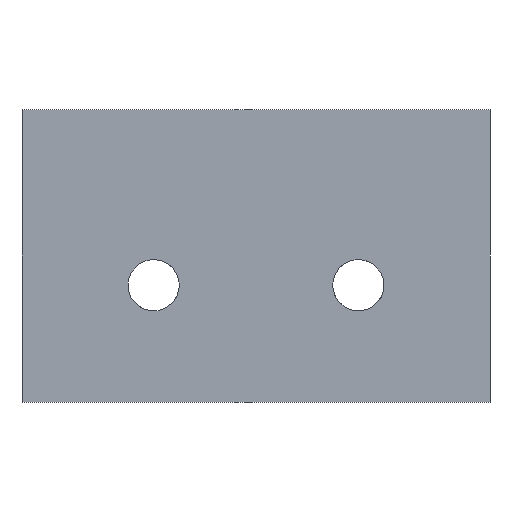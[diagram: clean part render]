
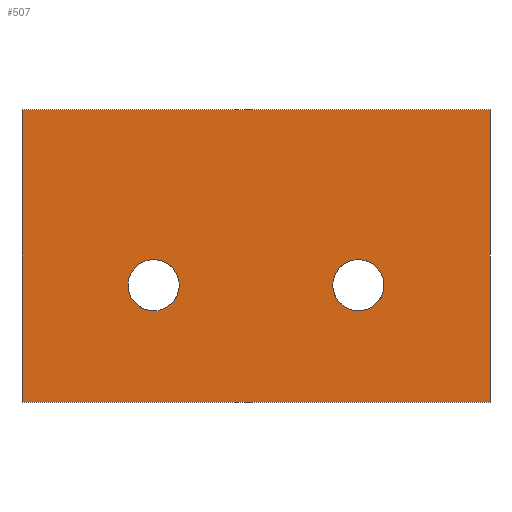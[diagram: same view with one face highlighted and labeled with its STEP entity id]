
A CAD part, left-side view. The second image highlights one B-rep face of the part: STEP entity #507.
In plain terms, the highlighted planar face has unit normal (-1, 0, 0).
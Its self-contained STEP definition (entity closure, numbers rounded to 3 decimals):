
#265=CARTESIAN_POINT('Vertex',(0.,160.,0.)) ;
#272=CARTESIAN_POINT('Vertex',(0.,0.,0.)) ;
#275=CARTESIAN_POINT('Line Origine',(0.,80.,0.)) ;
#292=CARTESIAN_POINT('Line Origine',(0.,160.,50.)) ;
#296=CARTESIAN_POINT('Vertex',(0.,160.,100.)) ;
#316=CARTESIAN_POINT('Line Origine',(0.,80.,100.)) ;
#320=CARTESIAN_POINT('Vertex',(0.,0.,100.)) ;
#340=CARTESIAN_POINT('Line Origine',(0.,0.,50.)) ;
#361=CARTESIAN_POINT('Vertex',(0.,115.,48.75)) ;
#364=CARTESIAN_POINT('Axis2P3D Location',(0.,115.,40.)) ;
#368=CARTESIAN_POINT('Vertex',(0.,123.75,40.)) ;
#371=CARTESIAN_POINT('Axis2P3D Location',(0.,115.,40.)) ;
#375=CARTESIAN_POINT('Vertex',(0.,115.,31.25)) ;
#397=CARTESIAN_POINT('Axis2P3D Location',(0.,115.,40.)) ;
#401=CARTESIAN_POINT('Vertex',(0.,106.25,40.)) ;
#404=CARTESIAN_POINT('Axis2P3D Location',(0.,115.,40.)) ;
#427=CARTESIAN_POINT('Vertex',(0.,45.,48.75)) ;
#430=CARTESIAN_POINT('Axis2P3D Location',(0.,45.,40.)) ;
#434=CARTESIAN_POINT('Vertex',(0.,53.75,40.)) ;
#437=CARTESIAN_POINT('Axis2P3D Location',(0.,45.,40.)) ;
#441=CARTESIAN_POINT('Vertex',(0.,45.,31.25)) ;
#463=CARTESIAN_POINT('Axis2P3D Location',(0.,45.,40.)) ;
#467=CARTESIAN_POINT('Vertex',(0.,36.25,40.)) ;
#470=CARTESIAN_POINT('Axis2P3D Location',(0.,45.,40.)) ;
#484=CARTESIAN_POINT('Axis2P3D Location',(0.,160.,100.)) ;
#276=DIRECTION('Vector Direction',(0.,-1.,0.)) ;
#293=DIRECTION('Vector Direction',(0.,0.,-1.)) ;
#317=DIRECTION('Vector Direction',(0.,-1.,0.)) ;
#341=DIRECTION('Vector Direction',(0.,0.,-1.)) ;
#365=DIRECTION('Axis2P3D Direction',(-1.,-0.,0.)) ;
#372=DIRECTION('Axis2P3D Direction',(-1.,-0.,0.)) ;
#398=DIRECTION('Axis2P3D Direction',(-1.,-0.,-0.)) ;
#405=DIRECTION('Axis2P3D Direction',(-1.,-0.,-0.)) ;
#431=DIRECTION('Axis2P3D Direction',(-1.,-0.,0.)) ;
#438=DIRECTION('Axis2P3D Direction',(-1.,-0.,0.)) ;
#464=DIRECTION('Axis2P3D Direction',(-1.,-0.,-0.)) ;
#471=DIRECTION('Axis2P3D Direction',(-1.,-0.,-0.)) ;
#485=DIRECTION('Axis2P3D Direction',(1.,0.,-0.)) ;
#486=DIRECTION('Axis2P3D XDirection',(-0.,0.,-1.)) ;
#366=AXIS2_PLACEMENT_3D('Circle Axis2P3D',#364,#365,$) ;
#373=AXIS2_PLACEMENT_3D('Circle Axis2P3D',#371,#372,$) ;
#399=AXIS2_PLACEMENT_3D('Circle Axis2P3D',#397,#398,$) ;
#406=AXIS2_PLACEMENT_3D('Circle Axis2P3D',#404,#405,$) ;
#432=AXIS2_PLACEMENT_3D('Circle Axis2P3D',#430,#431,$) ;
#439=AXIS2_PLACEMENT_3D('Circle Axis2P3D',#437,#438,$) ;
#465=AXIS2_PLACEMENT_3D('Circle Axis2P3D',#463,#464,$) ;
#472=AXIS2_PLACEMENT_3D('Circle Axis2P3D',#470,#471,$) ;
#487=AXIS2_PLACEMENT_3D('Plane Axis2P3D',#484,#485,#486) ;
#490=ORIENTED_EDGE('',*,*,#279,.T.) ;
#491=ORIENTED_EDGE('',*,*,#344,.F.) ;
#492=ORIENTED_EDGE('',*,*,#322,.F.) ;
#493=ORIENTED_EDGE('',*,*,#298,.T.) ;
#496=ORIENTED_EDGE('',*,*,#370,.T.) ;
#497=ORIENTED_EDGE('',*,*,#408,.T.) ;
#498=ORIENTED_EDGE('',*,*,#403,.T.) ;
#499=ORIENTED_EDGE('',*,*,#377,.T.) ;
#502=ORIENTED_EDGE('',*,*,#436,.T.) ;
#503=ORIENTED_EDGE('',*,*,#474,.T.) ;
#504=ORIENTED_EDGE('',*,*,#469,.T.) ;
#505=ORIENTED_EDGE('',*,*,#443,.T.) ;
#500=FACE_BOUND('',#495,.T.) ;
#506=FACE_BOUND('',#501,.T.) ;
#277=VECTOR('Line Direction',#276,1.) ;
#294=VECTOR('Line Direction',#293,1.) ;
#318=VECTOR('Line Direction',#317,1.) ;
#342=VECTOR('Line Direction',#341,1.) ;
#507=ADVANCED_FACE('A612-100-160',(#494,#500,#506),#488,.F.) ;
#367=CIRCLE('generated circle',#366,8.75) ;
#374=CIRCLE('generated circle',#373,8.75) ;
#400=CIRCLE('generated circle',#399,8.75) ;
#407=CIRCLE('generated circle',#406,8.75) ;
#433=CIRCLE('generated circle',#432,8.75) ;
#440=CIRCLE('generated circle',#439,8.75) ;
#466=CIRCLE('generated circle',#465,8.75) ;
#473=CIRCLE('generated circle',#472,8.75) ;
#279=EDGE_CURVE('',#266,#273,#278,.T.) ;
#298=EDGE_CURVE('',#297,#266,#295,.T.) ;
#322=EDGE_CURVE('',#297,#321,#319,.T.) ;
#344=EDGE_CURVE('',#321,#273,#343,.T.) ;
#370=EDGE_CURVE('',#369,#362,#367,.F.) ;
#377=EDGE_CURVE('',#376,#369,#374,.F.) ;
#403=EDGE_CURVE('',#402,#376,#400,.F.) ;
#408=EDGE_CURVE('',#362,#402,#407,.F.) ;
#436=EDGE_CURVE('',#435,#428,#433,.F.) ;
#443=EDGE_CURVE('',#442,#435,#440,.F.) ;
#469=EDGE_CURVE('',#468,#442,#466,.F.) ;
#474=EDGE_CURVE('',#428,#468,#473,.F.) ;
#489=EDGE_LOOP('',(#490,#491,#492,#493)) ;
#495=EDGE_LOOP('',(#496,#497,#498,#499)) ;
#501=EDGE_LOOP('',(#502,#503,#504,#505)) ;
#494=FACE_OUTER_BOUND('',#489,.T.) ;
#278=LINE('Line',#275,#277) ;
#295=LINE('Line',#292,#294) ;
#319=LINE('Line',#316,#318) ;
#343=LINE('Line',#340,#342) ;
#488=PLANE('Plane',#487) ;
#266=VERTEX_POINT('',#265) ;
#273=VERTEX_POINT('',#272) ;
#297=VERTEX_POINT('',#296) ;
#321=VERTEX_POINT('',#320) ;
#362=VERTEX_POINT('',#361) ;
#369=VERTEX_POINT('',#368) ;
#376=VERTEX_POINT('',#375) ;
#402=VERTEX_POINT('',#401) ;
#428=VERTEX_POINT('',#427) ;
#435=VERTEX_POINT('',#434) ;
#442=VERTEX_POINT('',#441) ;
#468=VERTEX_POINT('',#467) ;
